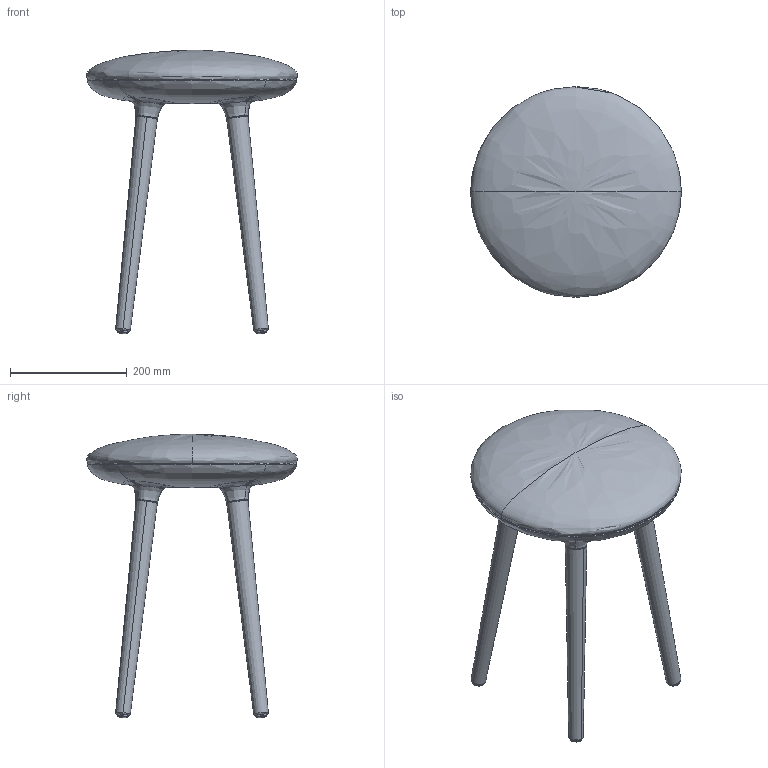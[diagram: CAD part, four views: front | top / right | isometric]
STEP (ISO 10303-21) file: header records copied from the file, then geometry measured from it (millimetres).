
FILE_DESCRIPTION (( 'STEP AP214' ), '1' );
FILE_NAME ('KIT321_Sgabello-Joy_Basso_Sempl_Render.STEP', '2022-04-27T15:02:33', ( '' ), ( '' ), 'SwSTEP 2.0', 'SolidWorks 2017', '' );
FILE_SCHEMA (( 'AUTOMOTIVE_DESIGN' ));
Length unit declared in the file: millimetre
Products named in the file (21): Pelle_Tessuto_17-1-22; Gamba_Corta_1-12-21_3; Piedino_7; Piedino_6; KIT321_Sgabello-Joy_Basso_Sempl_Render; Elemento_Portante; Gamba_Corta_1-12-21_1; Piedino_5; Piedino_4; Gamba_Corta_1-12-21_2; Gamba_Corta_1-12-21
Assembly tree (10 placements, depth 2):
  Gamba_Corta_1-12-21_3
  Piedino_7
  Piedino_6
  KIT321_Sgabello-Joy_Basso_Sempl_Render
    Piedino_5
    Piedino_6
    Piedino_7
    Gamba_Corta_1-12-21
    Piedino_4
    Gamba_Corta_1-12-21_1
    Gamba_Corta_1-12-21_2
    Gamba_Corta_1-12-21_3
    Pelle_Tessuto_17-1-22
    Elemento_Portante
  Elemento_Portante
Bounding box: 361.73 x 361.7 x 486.52 mm (x, y, z)
Volume: 4030030.1 mm3; surface area: 510574.9 mm2
Topology: 10 solids, 11 shells, 294 faces, 1112 edges, 845 vertices
Faces by surface type: bspline 95, torus 60, cylinder 54, plane 52, cone 28, sphere 5
Entity records: 52145 total; most frequent: CARTESIAN_POINT 43926, ORIENTED_EDGE 2186, EDGE_CURVE 1110, DIRECTION 907, VERTEX_POINT 845, B_SPLINE_CURVE_WITH_KNOTS 698, AXIS2_PLACEMENT_3D 416, EDGE_LOOP 302
